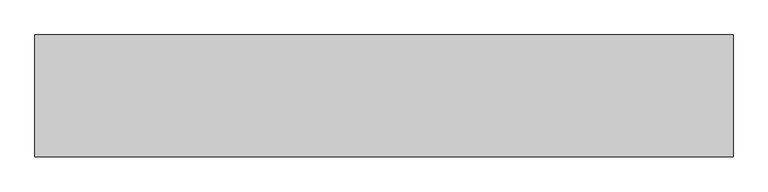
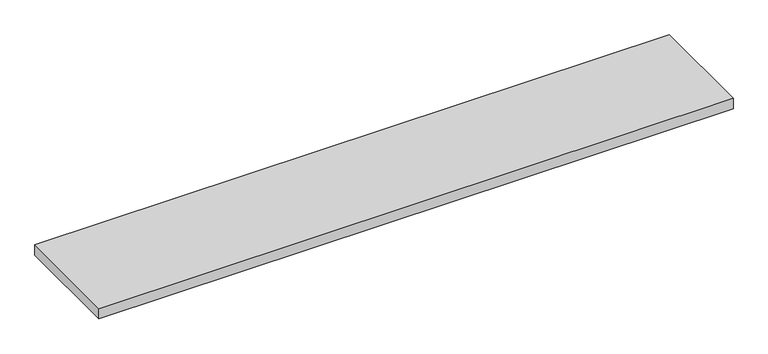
"""IFC4 building model written with IfcOpenShell, lengths in millimetres: proxy geometry, Vita_Решетка : РАП_Алюминиевая продольная."""

from ifc_helpers import new_model, si_unit, frame, origin, place, context, project, spatial, polyline, outline, extrude, source, transform, mapped, element, save


def mechanical_equipment_60c2d6ec(model_context):
    return source(origin(), model_context, "Body", "SweptSolid", [
        extrude(outline(polyline([(-599.0, -112.8), (599.0, -112.8), (599.0, -322.2), (-599.0, -322.2), (-599.0, -112.8)])), frame((0.0, 0.0, 209.83), z_axis=(0.0, 0.0, 1.0), x_axis=(1.0, 0.0, 0.0)), (0.0, 0.0, 1.0), 20.17),
    ])


if __name__ == "__main__":
    model = new_model("IFC4")
    model_context = context("Model", 3, world=origin())
    ifc_project = project(units=[si_unit("LENGTHUNIT", "METRE", prefix="MILLI")], contexts=[model_context])
    site = spatial("IfcSite", under=ifc_project)
    building = spatial("IfcBuilding", under=site)
    placement = place(None, origin())
    mechanical_equipment_shape = mechanical_equipment_60c2d6ec(model_context)
    element("IfcBuildingElementProxy", 1, Name="Vita_Решетка : РАП_Алюминиевая продольная", ObjectType="Vita_Решетка : РАП_Алюминиевая продольная", at=placement, inside=building, context=model_context, shape_type="MappedRepresentation", body=[
        mapped(mechanical_equipment_shape, transform((0.0, 0.0, 0.0), x_axis=(1.0, 0.0, 0.0), y_axis=(0.0, 1.0, 0.0), z_axis=(0.0, 0.0, 1.0))),
    ])
    save(model, "model.ifc")
